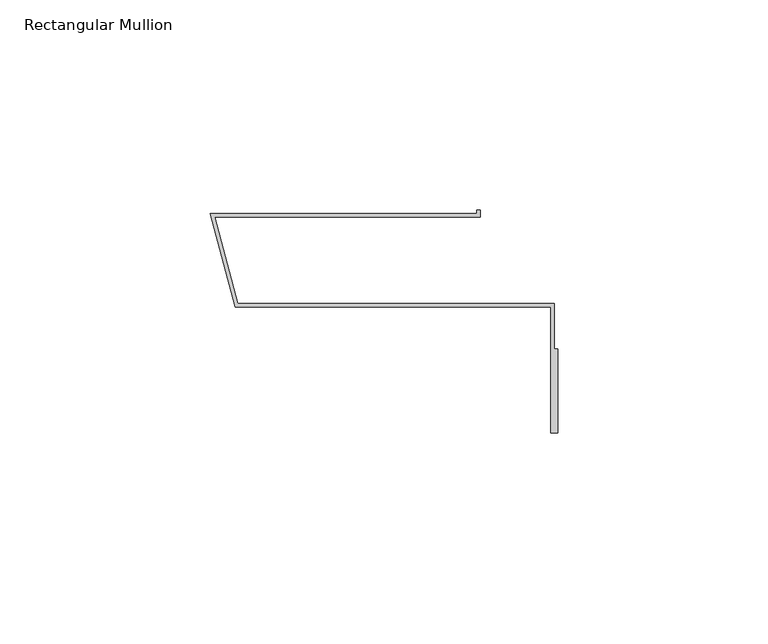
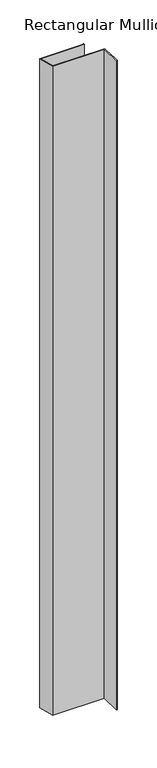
"""IFC4 building model written with IfcOpenShell, lengths in millimetres: member geometry, Rectangular Mullion : TE-H-05_02_Internal corner i L."""

from ifc_helpers import new_model, si_unit, frame, origin, place, context, project, spatial, polyline, outline, extrude, source, transform, mapped, element, save


def rectangular_mullion_02bb17b1(model_context):
    return source(origin(), model_context, "Body", "SweptSolid", [
        extrude(outline(polyline([(-1.6, -23.0), (-76.6, -23.0), (-82.5484721, -0.8), (-19.2, -0.8), (-19.2, 0.0), (-18.4, 0.0), (-18.4, -1.6), (-81.5058918, -1.6), (-75.9861384, -22.2), (-0.8, -22.2), (-0.8, -33.0), (0.0, -33.0), (0.0, -53.0), (-1.6, -53.0), (-1.6, -23.0)])), frame((0.0, 0.0, -1000.0), z_axis=(0.0, 0.0, 1.0), x_axis=(1.0, 0.0, 0.0)), (0.0, 0.0, 1.0), 1000.0),
    ])


if __name__ == "__main__":
    model = new_model("IFC4")
    model_context = context("Model", 3, world=origin())
    ifc_project = project(units=[si_unit("LENGTHUNIT", "METRE", prefix="MILLI")], contexts=[model_context])
    site = spatial("IfcSite", under=ifc_project)
    building = spatial("IfcBuilding", under=site)
    placement = place(None, origin())
    rectangular_mullion_shape = rectangular_mullion_02bb17b1(model_context)
    element("IfcMember", 1, ObjectType="Rectangular Mullion : TE-H-05_02_Internal corner i L", at=placement, inside=building, context=model_context, shape_type="MappedRepresentation", body=[
        mapped(rectangular_mullion_shape, transform((0.0, 0.0, 0.0), x_axis=(1.0, 0.0, 0.0), y_axis=(0.0, 1.0, 0.0), z_axis=(0.0, 0.0, 1.0))),
    ])
    save(model, "model.ifc")
